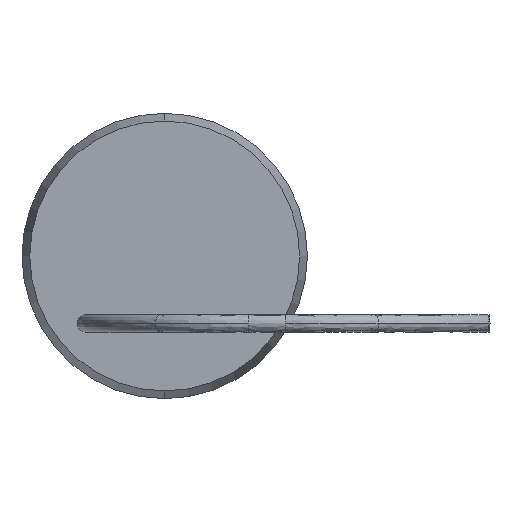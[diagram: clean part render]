
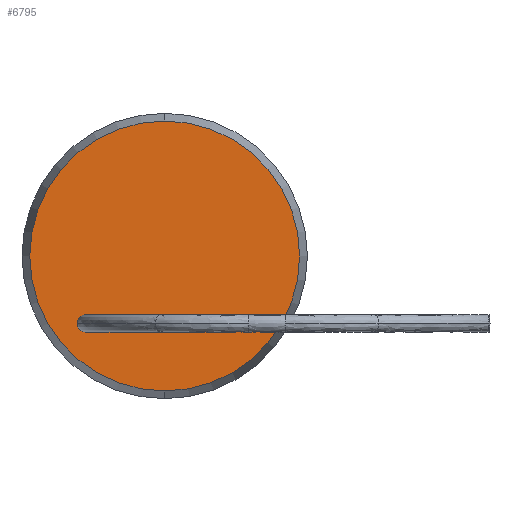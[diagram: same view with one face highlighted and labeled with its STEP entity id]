
A CAD part, left-side view. The second image highlights one B-rep face of the part: STEP entity #6795.
In plain terms, the highlighted planar face has unit normal (-1, 0, 0).
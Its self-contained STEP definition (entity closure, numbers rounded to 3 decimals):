
#35 = ORIENTED_EDGE ( 'NONE', *, *, #4235, .F. ) ;
#178 = ORIENTED_EDGE ( 'NONE', *, *, #5149, .F. ) ;
#267 = EDGE_LOOP ( 'NONE', ( #5243, #5315 ) ) ;
#307 = CIRCLE ( 'NONE', #308, 9.314 ) ;
#308 = AXIS2_PLACEMENT_3D ( 'NONE', #309, #310, #311 ) ;
#309 = CARTESIAN_POINT ( 'NONE',  ( 0., 0., 0. ) ) ;
#310 = DIRECTION ( 'NONE',  ( 1., 0., 0. ) ) ;
#311 = DIRECTION ( 'NONE',  ( 0., 0., -1. ) ) ;
#513 = CARTESIAN_POINT ( 'NONE',  ( 0., 0., -9.314 ) ) ;
#617 = ORIENTED_EDGE ( 'NONE', *, *, #4436, .F. ) ;
#679 = CARTESIAN_POINT ( 'NONE',  ( 0., 0., 9.314 ) ) ;
#807 = CIRCLE ( 'NONE', #808, 0.6 ) ;
#808 = AXIS2_PLACEMENT_3D ( 'NONE', #809, #810, #811 ) ;
#809 = CARTESIAN_POINT ( 'NONE',  ( 0., 0., -4.65 ) ) ;
#810 = DIRECTION ( 'NONE',  ( -1., 0., 0. ) ) ;
#811 = DIRECTION ( 'NONE',  ( 0., 0., 1. ) ) ;
#904 = CARTESIAN_POINT ( 'NONE',  ( 0., -2.54, -5.25 ) ) ;
#919 = CARTESIAN_POINT ( 'NONE',  ( 0., -2.54, -4.05 ) ) ;
#929 = CARTESIAN_POINT ( 'NONE',  ( 0., 0., -4.05 ) ) ;
#1066 = CARTESIAN_POINT ( 'NONE',  ( 0., 0., -5.25 ) ) ;
#1770 = CIRCLE ( 'NONE', #1771, 0.6 ) ;
#1771 = AXIS2_PLACEMENT_3D ( 'NONE', #1772, #1773, #1774 ) ;
#1772 = CARTESIAN_POINT ( 'NONE',  ( 0., -2.54, -4.65 ) ) ;
#1773 = DIRECTION ( 'NONE',  ( 1., 0., 0. ) ) ;
#1774 = DIRECTION ( 'NONE',  ( 0., 0., 1. ) ) ;
#2075 = CIRCLE ( 'NONE', #2076, 0.6 ) ;
#2076 = AXIS2_PLACEMENT_3D ( 'NONE', #2077, #2078, #2079 ) ;
#2077 = CARTESIAN_POINT ( 'NONE',  ( 0., 2.54, -4.65 ) ) ;
#2078 = DIRECTION ( 'NONE',  ( -1., 0., 0. ) ) ;
#2079 = DIRECTION ( 'NONE',  ( 0., 0., 1. ) ) ;
#2619 = FACE_BOUND ( 'NONE', #7120, .T. ) ;
#2620 = FACE_BOUND ( 'NONE', #267, .T. ) ;
#2621 = FACE_BOUND ( 'NONE', #5349, .T. ) ;
#2622 = FACE_OUTER_BOUND ( 'NONE', #6256, .T. ) ;
#2623 = PLANE ( 'NONE',  #2624 ) ;
#2624 = AXIS2_PLACEMENT_3D ( 'NONE', #2625, #2626, #2627 ) ;
#2625 = CARTESIAN_POINT ( 'NONE',  ( 0., 9.687, 9.687 ) ) ;
#2626 = DIRECTION ( 'NONE',  ( 1., 0., 0. ) ) ;
#2627 = DIRECTION ( 'NONE',  ( 0., -1., 0. ) ) ;
#2753 = CIRCLE ( 'NONE', #2754, 0.6 ) ;
#2754 = AXIS2_PLACEMENT_3D ( 'NONE', #2755, #2756, #2759 ) ;
#2755 = CARTESIAN_POINT ( 'NONE',  ( 0., 0., -4.65 ) ) ;
#2756 = DIRECTION ( 'NONE',  ( -1., 0., 0. ) ) ;
#2759 = DIRECTION ( 'NONE',  ( 0., 0., 1. ) ) ;
#2795 = EDGE_CURVE ( 'NONE', #2987, #3168, #7103, .T. ) ;
#2987 = VERTEX_POINT ( 'NONE', #7267 ) ;
#3083 = CIRCLE ( 'NONE', #3084, 9.314 ) ;
#3084 = AXIS2_PLACEMENT_3D ( 'NONE', #3085, #3086, #3087 ) ;
#3085 = CARTESIAN_POINT ( 'NONE',  ( 0., 0., 0. ) ) ;
#3086 = DIRECTION ( 'NONE',  ( 1., 0., 0. ) ) ;
#3087 = DIRECTION ( 'NONE',  ( 0., 0., -1. ) ) ;
#3168 = VERTEX_POINT ( 'NONE', #7413 ) ;
#4235 = EDGE_CURVE ( 'NONE', #3168, #2987, #2075, .T. ) ;
#4436 = EDGE_CURVE ( 'NONE', #5208, #5180, #3083, .T. ) ;
#5076 = EDGE_CURVE ( 'NONE', #5259, #5266, #7949, .T. ) ;
#5149 = EDGE_CURVE ( 'NONE', #5180, #5208, #307, .T. ) ;
#5180 = VERTEX_POINT ( 'NONE', #513 ) ;
#5208 = VERTEX_POINT ( 'NONE', #679 ) ;
#5242 = EDGE_CURVE ( 'NONE', #5271, #5299, #807, .T. ) ;
#5243 = ORIENTED_EDGE ( 'NONE', *, *, #5242, .F. ) ;
#5259 = VERTEX_POINT ( 'NONE', #904 ) ;
#5266 = VERTEX_POINT ( 'NONE', #919 ) ;
#5271 = VERTEX_POINT ( 'NONE', #929 ) ;
#5299 = VERTEX_POINT ( 'NONE', #1066 ) ;
#5315 = ORIENTED_EDGE ( 'NONE', *, *, #6941, .F. ) ;
#5349 = EDGE_LOOP ( 'NONE', ( #5407, #6040 ) ) ;
#5407 = ORIENTED_EDGE ( 'NONE', *, *, #5576, .T. ) ;
#5576 = EDGE_CURVE ( 'NONE', #5266, #5259, #1770, .T. ) ;
#6040 = ORIENTED_EDGE ( 'NONE', *, *, #5076, .T. ) ;
#6256 = EDGE_LOOP ( 'NONE', ( #178, #617 ) ) ;
#6795 = ADVANCED_FACE ( 'NONE', ( #2619, #2620, #2621, #2622 ), #2623, .F. ) ;
#6941 = EDGE_CURVE ( 'NONE', #5299, #5271, #2753, .T. ) ;
#7103 = CIRCLE ( 'NONE', #7104, 0.6 ) ;
#7104 = AXIS2_PLACEMENT_3D ( 'NONE', #7105, #7106, #7107 ) ;
#7105 = CARTESIAN_POINT ( 'NONE',  ( 0., 2.54, -4.65 ) ) ;
#7106 = DIRECTION ( 'NONE',  ( -1., 0., 0. ) ) ;
#7107 = DIRECTION ( 'NONE',  ( 0., 0., 1. ) ) ;
#7120 = EDGE_LOOP ( 'NONE', ( #7567, #35 ) ) ;
#7267 = CARTESIAN_POINT ( 'NONE',  ( 0., 2.54, -4.05 ) ) ;
#7413 = CARTESIAN_POINT ( 'NONE',  ( 0., 2.54, -5.25 ) ) ;
#7567 = ORIENTED_EDGE ( 'NONE', *, *, #2795, .F. ) ;
#7949 = CIRCLE ( 'NONE', #7950, 0.6 ) ;
#7950 = AXIS2_PLACEMENT_3D ( 'NONE', #7951, #7952, #7953 ) ;
#7951 = CARTESIAN_POINT ( 'NONE',  ( 0., -2.54, -4.65 ) ) ;
#7952 = DIRECTION ( 'NONE',  ( 1., 0., 0. ) ) ;
#7953 = DIRECTION ( 'NONE',  ( 0., 0., 1. ) ) ;
